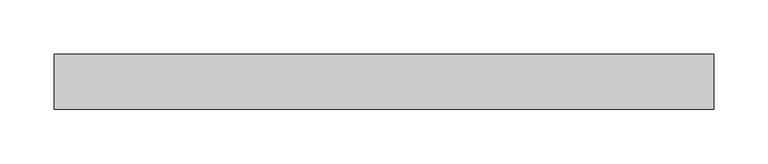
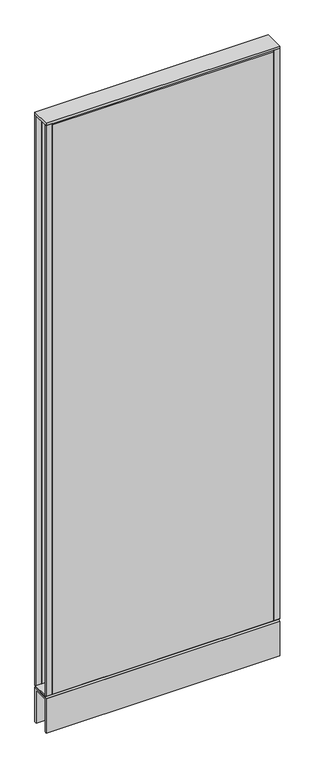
"""IFC4 building model written with IfcOpenShell, lengths in millimetres: furniture geometry, Steelcase - Kick Solutions - Panel - Monolithic - Tackable Acoustical : 66H x 24W."""

from ifc_helpers import new_model, si_unit, frame, origin, place, context, project, spatial, polyline, outline, extrude, source, transform, mapped, element, save


def furniture_47e4a544(model_context):
    return source(origin(), model_context, "Body", "SweptSolid", [
        extrude(outline(polyline([(0.0, 101.7169049), (-3.1750015, 101.7169049), (-3.1750015, 1676.5169018), (0.0, 1673.4357466), (0.0, 101.7169049)])), frame((15.8749996, 0.0, 0.0), z_axis=(1.0, 0.0, 0.0), x_axis=(0.0, 1.0, 0.0)), (0.0, 0.0, 1.0), 577.8500008),
        extrude(outline(polyline([(-50.8000015, 101.7169049), (-50.8000015, 1673.4357466), (-47.625, 1676.5169018), (-47.625, 101.7169049), (-50.8000015, 101.7169049)])), frame((15.8749996, 0.0, 0.0), z_axis=(1.0, 0.0, 0.0), x_axis=(0.0, 1.0, 0.0)), (0.0, 0.0, 1.0), 577.8500008),
        extrude(outline(polyline([(609.6, -3.1750015), (593.7250004, -3.1750015), (593.7250004, 0.0), (609.6, 0.0), (609.6, -3.1750015)])), frame((0.0, 0.0, 101.7169049), z_axis=(0.0, 0.0, 1.0), x_axis=(1.0, 0.0, 0.0)), (0.0, 0.0, 1.0), 1574.799997),
        extrude(outline(polyline([(15.8749996, -50.8000015), (0.0, -50.8000015), (0.0, -47.625), (15.8749996, -47.625), (15.8749996, -50.8000015)])), frame((0.0, 0.0, 101.7169049), z_axis=(0.0, 0.0, 1.0), x_axis=(1.0, 0.0, 0.0)), (0.0, 0.0, 1.0), 1574.799997),
        extrude(outline(polyline([(-50.7995075, 101.7169049), (-0.000494, 101.7169049), (-3.0583512, 98.5421458), (-47.7416503, 98.5421458), (-50.7995075, 101.7169049)])), frame((0.0, 0.0, 0.0), z_axis=(1.0, 0.0, 0.0), x_axis=(0.0, 1.0, 0.0)), (0.0, 0.0, 1.0), 609.6),
        extrude(outline(polyline([(609.6, 0.0), (609.6, -50.8000015), (0.0, -50.8000015), (0.0, 0.0), (609.6, 0.0)])), frame((0.0, 0.0, 1676.5169018), z_axis=(0.0, 0.0, 1.0), x_axis=(1.0, 0.0, 0.0)), (0.0, 0.0, 1.0), 6.35),
        extrude(outline(polyline([(15.8749996, -3.1750015), (0.0, -3.1750015), (0.0, 0.0), (15.8749996, 0.0), (15.8749996, -3.1750015)])), frame((0.0, 0.0, 101.7169049), z_axis=(0.0, 0.0, 1.0), x_axis=(1.0, 0.0, 0.0)), (0.0, 0.0, 1.0), 1574.799997),
        extrude(outline(polyline([(609.6, -50.8000015), (593.7250004, -50.8000015), (593.7250004, -47.625), (609.6, -47.625), (609.6, -50.8000015)])), frame((0.0, 0.0, 101.7169049), z_axis=(0.0, 0.0, 1.0), x_axis=(1.0, 0.0, 0.0)), (0.0, 0.0, 1.0), 1574.799997),
        extrude(outline(polyline([(-50.8000015, 95.3668927), (-47.6247484, 98.5421458), (-3.1752531, 98.5421458), (0.0, 95.3668927), (-50.8000015, 95.3668927)])), frame((0.0, 0.0, 0.0), z_axis=(1.0, 0.0, 0.0), x_axis=(0.0, 1.0, 0.0)), (0.0, 0.0, 1.0), 609.6),
        extrude(outline(polyline([(0.0, 0.0), (-5.08, 0.0), (-5.08, 90.2869018), (-45.7200015, 90.2869018), (-45.7200015, 0.0), (-50.8000015, 0.0), (-50.8000015, 95.3669018), (0.0, 95.3669018), (0.0, 0.0)])), frame((0.0, 0.0, 0.0), z_axis=(1.0, 0.0, 0.0), x_axis=(0.0, 1.0, 0.0)), (0.0, 0.0, 1.0), 609.6),
    ])


if __name__ == "__main__":
    model = new_model("IFC4")
    model_context = context("Model", 3, world=origin())
    ifc_project = project(units=[si_unit("LENGTHUNIT", "METRE", prefix="MILLI")], contexts=[model_context])
    site = spatial("IfcSite", under=ifc_project)
    building = spatial("IfcBuilding", under=site)
    placement = place(None, origin())
    furniture_shape = furniture_47e4a544(model_context)
    element("IfcFurniture", 1, ObjectType="Steelcase - Kick Solutions - Panel - Monolithic - Tackable Acoustical : 66H x 24W", at=placement, inside=building, context=model_context, shape_type="MappedRepresentation", body=[
        mapped(furniture_shape, transform((0.0, 0.0, 0.0), x_axis=(1.0, 0.0, 0.0), y_axis=(0.0, 1.0, 0.0), z_axis=(0.0, 0.0, 1.0))),
    ])
    save(model, "model.ifc")
